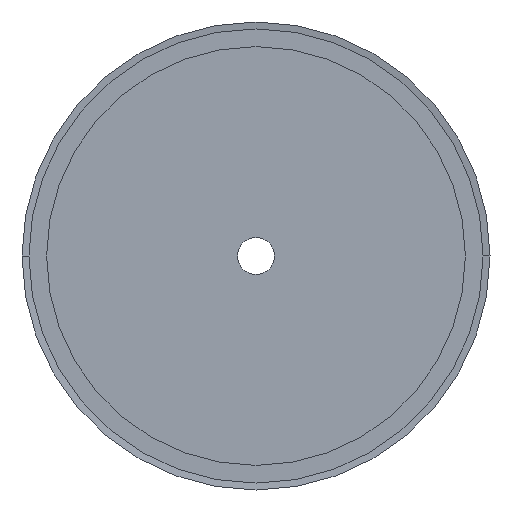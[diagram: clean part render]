
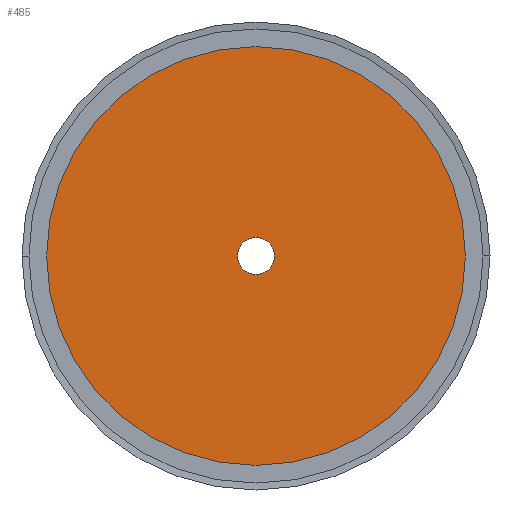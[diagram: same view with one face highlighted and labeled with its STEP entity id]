
A CAD part, left-side view. The second image highlights one B-rep face of the part: STEP entity #485.
In plain terms, the highlighted planar face has unit normal (-1, 0, 0).
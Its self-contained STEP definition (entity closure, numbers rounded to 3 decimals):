
#485 = ADVANCED_FACE( '', ( #1313, #1314 ), #1315, .T. );
#1313 = FACE_BOUND( '', #2142, .T. );
#1314 = FACE_OUTER_BOUND( '', #2143, .T. );
#1315 = PLANE( '', #2144 );
#2142 = EDGE_LOOP( '', ( #5779, #5780 ) );
#2143 = EDGE_LOOP( '', ( #5781, #5782 ) );
#2144 = AXIS2_PLACEMENT_3D( '', #5783, #5784, #5785 );
#5779 = ORIENTED_EDGE( '', *, *, #5825, .T. );
#5780 = ORIENTED_EDGE( '', *, *, #5821, .T. );
#5781 = ORIENTED_EDGE( '', *, *, #5789, .T. );
#5782 = ORIENTED_EDGE( '', *, *, #6989, .T. );
#5783 = CARTESIAN_POINT( '', ( 0., 34., 0. ) );
#5784 = DIRECTION( '', ( -1., 0., 0. ) );
#5785 = DIRECTION( '', ( 0., 1., 0. ) );
#5789 = EDGE_CURVE( '', #6991, #6995, #6997, .T. );
#5821 = EDGE_CURVE( '', #7055, #7052, #7056, .T. );
#5825 = EDGE_CURVE( '', #7052, #7055, #7061, .T. );
#6989 = EDGE_CURVE( '', #6995, #6991, #8993, .T. );
#6991 = VERTEX_POINT( '', #8995 );
#6995 = VERTEX_POINT( '', #9000 );
#6997 = CIRCLE( '', #9003, 68. );
#7052 = VERTEX_POINT( '', #9074 );
#7055 = VERTEX_POINT( '', #9078 );
#7056 = CIRCLE( '', #9079, 6. );
#7061 = CIRCLE( '', #9085, 6. );
#8993 = CIRCLE( '', #11689, 68. );
#8995 = CARTESIAN_POINT( '', ( 0., 68., 0. ) );
#9000 = CARTESIAN_POINT( '', ( 0., -68., 0. ) );
#9003 = AXIS2_PLACEMENT_3D( '', #11695, #11696, #11697 );
#9074 = CARTESIAN_POINT( '', ( 0., 6., 0. ) );
#9078 = CARTESIAN_POINT( '', ( 0., -6., 0. ) );
#9079 = AXIS2_PLACEMENT_3D( '', #11757, #11758, #11759 );
#9085 = AXIS2_PLACEMENT_3D( '', #11767, #11768, #11769 );
#11689 = AXIS2_PLACEMENT_3D( '', #13915, #13916, #13917 );
#11695 = CARTESIAN_POINT( '', ( 0., 0., 0. ) );
#11696 = DIRECTION( '', ( -1., 0., 0. ) );
#11697 = DIRECTION( '', ( 0., 1., 0. ) );
#11757 = CARTESIAN_POINT( '', ( 0., 0., 0. ) );
#11758 = DIRECTION( '', ( 1., 0., 0. ) );
#11759 = DIRECTION( '', ( 0., 1., 0. ) );
#11767 = CARTESIAN_POINT( '', ( 0., 0., 0. ) );
#11768 = DIRECTION( '', ( 1., 0., 0. ) );
#11769 = DIRECTION( '', ( 0., 1., 0. ) );
#13915 = CARTESIAN_POINT( '', ( 0., 0., 0. ) );
#13916 = DIRECTION( '', ( -1., 0., 0. ) );
#13917 = DIRECTION( '', ( 0., 1., 0. ) );
